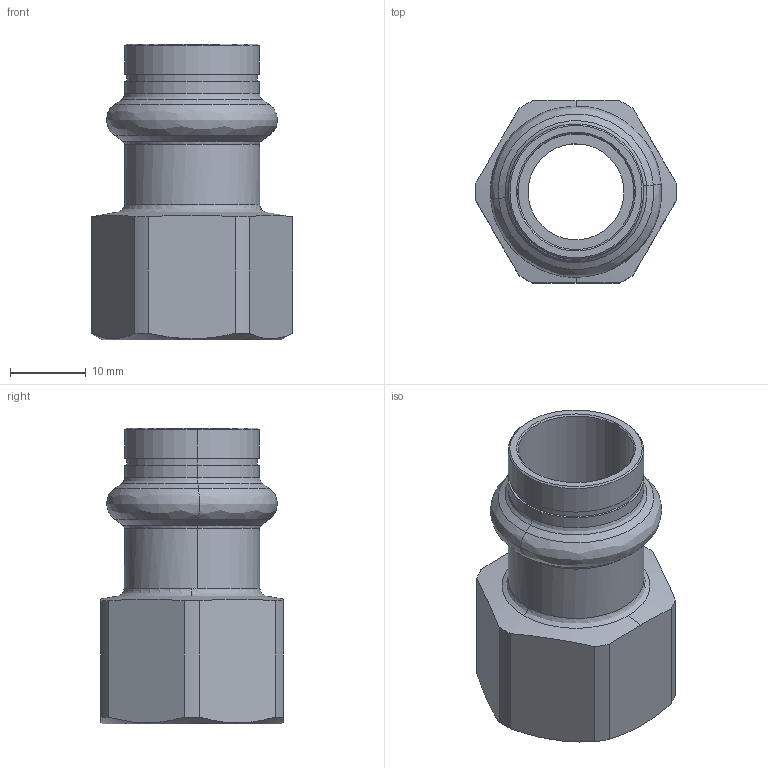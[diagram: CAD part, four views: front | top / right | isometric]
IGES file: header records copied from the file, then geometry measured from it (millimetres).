
Start section: Elysium IGES Interface
Global section: file name: C:\3d modellen sudo\C-Pr VP\SP8270GV\8270GVW1512.igs; native system: CoCreate Modeling 17.00A  17-Jun-2010; preprocessor: CoCreate IGES_3D V2.2; author: Unknown; organization: Unknown; date: 20130305.110528; units: millimetre
Bounding box: 26.59 x 24 x 39 mm (x, y, z)
Volume: 5470.6 mm3; surface area: 5610.8 mm2
Topology: 1 solids, 1 shells, 66 faces, 156 edges, 96 vertices
Faces by surface type: bspline 66
